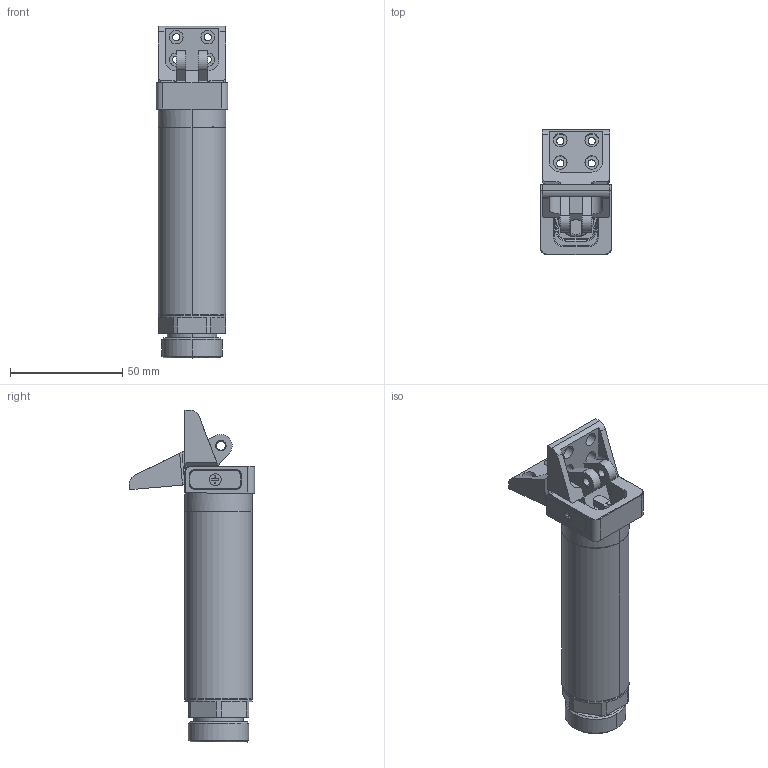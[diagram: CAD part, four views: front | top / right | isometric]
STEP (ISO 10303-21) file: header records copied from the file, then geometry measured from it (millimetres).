
FILE_DESCRIPTION (( 'STEP AP214' ), '1' );
FILE_NAME ('GFR30-95-C.STEP', '2019-11-13T01:41:14', ( '微软用户' ), ( '微软中国' ), 'SwSTEP 2.0', 'SolidWorks 2016', '' );
FILE_SCHEMA (( 'AUTOMOTIVE_DESIGN' ));
Length unit declared in the file: millimetre
Products named in the file (1): GFR30-95-C
Bounding box: 32 x 55.76 x 148 mm (x, y, z)
Volume: 76044.7 mm3; surface area: 42407.4 mm2
Topology: 12 solids, 12 shells, 582 faces, 1390 edges, 842 vertices
Faces by surface type: cylinder 221, plane 164, cone 140, bspline 33, torus 16, sphere 8
Entity records: 24583 total; most frequent: CARTESIAN_POINT 4375, DIRECTION 2957, ORIENTED_EDGE 2780, EDGE_CURVE 1390, AXIS2_PLACEMENT_3D 1111, VERTEX_POINT 842, VECTOR 735, LINE 735
